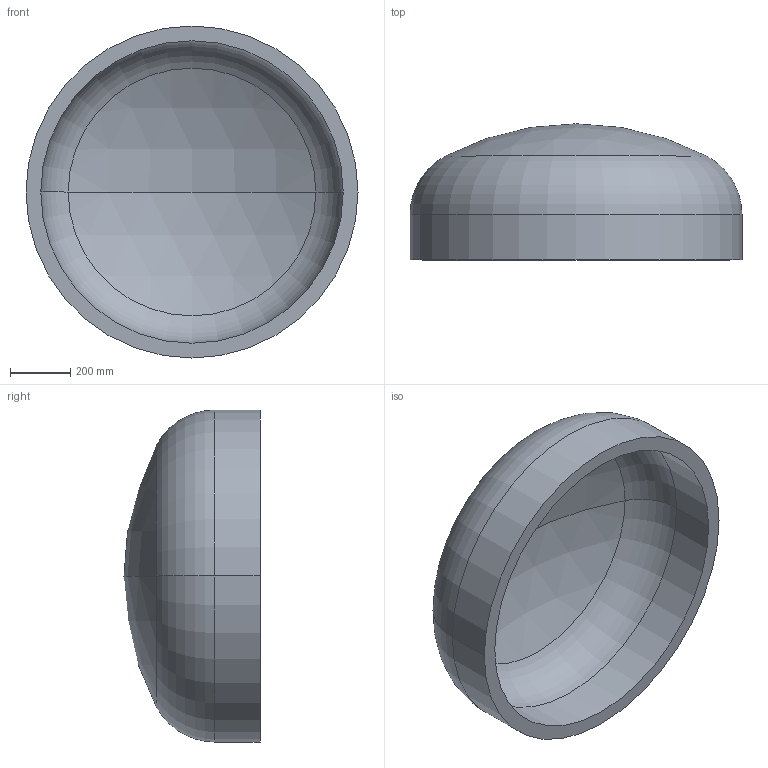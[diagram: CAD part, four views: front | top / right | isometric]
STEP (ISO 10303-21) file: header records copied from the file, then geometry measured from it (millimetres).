
FILE_DESCRIPTION (( 'STEP AP203' ), '1' );
FILE_NAME ('DIN 28013 Korbbogenform_-_Boden DIN 28013 - 1100 x 150 - I - s=49.step', '2016-07-01T09:09:41', ( '' ), ( '' ), 'SwSTEP 2.0', 'SolidWorks 2013', '' );
FILE_SCHEMA (( 'CONFIG_CONTROL_DESIGN' ));
Length unit declared in the file: millimetre
Products named in the file (1): DIN 28013 Korbbogenform_-_Boden DIN 28013 - 1100 x 150 - I - s=49
Bounding box: 1100 x 450.88 x 1100 mm (x, y, z)
Volume: 85202082.5 mm3; surface area: 3644452.8 mm2
Topology: 1 solids, 1 shells, 13 faces, 24 edges, 14 vertices
Faces by surface type: torus 4, cylinder 4, sphere 4, plane 1
Entity records: 407 total; most frequent: DIRECTION 72, CARTESIAN_POINT 52, ORIENTED_EDGE 48, AXIS2_PLACEMENT_3D 34, EDGE_CURVE 24, CIRCLE 20, VERTEX_POINT 14, EDGE_LOOP 14
